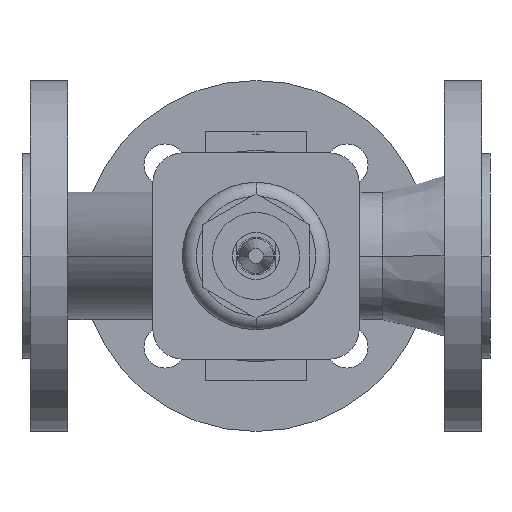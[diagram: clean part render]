
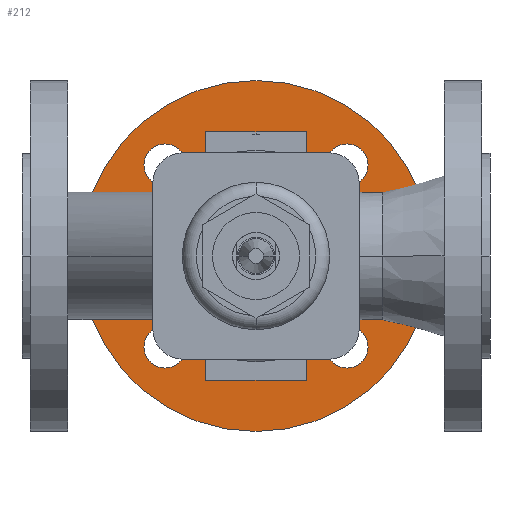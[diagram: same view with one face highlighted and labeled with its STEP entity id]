
A CAD part, front view. The second image highlights one B-rep face of the part: STEP entity #212.
In plain terms, the highlighted planar face has unit normal (0, -1, 0).
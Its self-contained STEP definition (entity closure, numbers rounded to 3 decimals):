
#212 = ADVANCED_FACE( '', ( #529, #530, #531, #532, #533, #534 ), #535, .T. );
#529 = FACE_OUTER_BOUND( '', #856, .T. );
#530 = FACE_BOUND( '', #857, .T. );
#531 = FACE_BOUND( '', #858, .T. );
#532 = FACE_BOUND( '', #859, .T. );
#533 = FACE_BOUND( '', #860, .T. );
#534 = FACE_BOUND( '', #861, .T. );
#535 = PLANE( '', #862 );
#856 = EDGE_LOOP( '', ( #1946, #1947 ) );
#857 = EDGE_LOOP( '', ( #1948, #1949 ) );
#858 = EDGE_LOOP( '', ( #1950, #1951 ) );
#859 = EDGE_LOOP( '', ( #1952, #1953 ) );
#860 = EDGE_LOOP( '', ( #1954, #1955 ) );
#861 = EDGE_LOOP( '', ( #1956, #1957 ) );
#862 = AXIS2_PLACEMENT_3D( '', #1958, #1959, #1960 );
#1946 = ORIENTED_EDGE( '', *, *, #2341, .F. );
#1947 = ORIENTED_EDGE( '', *, *, #2005, .F. );
#1948 = ORIENTED_EDGE( '', *, *, #2340, .F. );
#1949 = ORIENTED_EDGE( '', *, *, #2009, .F. );
#1950 = ORIENTED_EDGE( '', *, *, #2339, .F. );
#1951 = ORIENTED_EDGE( '', *, *, #2013, .F. );
#1952 = ORIENTED_EDGE( '', *, *, #2338, .F. );
#1953 = ORIENTED_EDGE( '', *, *, #2017, .F. );
#1954 = ORIENTED_EDGE( '', *, *, #2337, .F. );
#1955 = ORIENTED_EDGE( '', *, *, #2021, .F. );
#1956 = ORIENTED_EDGE( '', *, *, #1995, .F. );
#1957 = ORIENTED_EDGE( '', *, *, #2343, .F. );
#1958 = CARTESIAN_POINT( '', ( 59.25, 70.36, 0. ) );
#1959 = DIRECTION( '', ( 0., -1., 0. ) );
#1960 = DIRECTION( '', ( -1., 0., 0. ) );
#1995 = EDGE_CURVE( '', #2344, #2347, #2348, .T. );
#2005 = EDGE_CURVE( '', #2365, #2361, #2367, .T. );
#2009 = EDGE_CURVE( '', #2373, #2369, #2375, .T. );
#2013 = EDGE_CURVE( '', #2381, #2377, #2383, .T. );
#2017 = EDGE_CURVE( '', #2389, #2385, #2391, .T. );
#2021 = EDGE_CURVE( '', #2397, #2393, #2399, .T. );
#2337 = EDGE_CURVE( '', #2393, #2397, #2919, .T. );
#2338 = EDGE_CURVE( '', #2385, #2389, #2920, .T. );
#2339 = EDGE_CURVE( '', #2377, #2381, #2921, .T. );
#2340 = EDGE_CURVE( '', #2369, #2373, #2922, .T. );
#2341 = EDGE_CURVE( '', #2361, #2365, #2923, .T. );
#2343 = EDGE_CURVE( '', #2347, #2344, #2925, .T. );
#2344 = VERTEX_POINT( '', #2926 );
#2347 = VERTEX_POINT( '', #2930 );
#2348 = CIRCLE( '', #2931, 37.5 );
#2361 = VERTEX_POINT( '', #2947 );
#2365 = VERTEX_POINT( '', #2952 );
#2367 = CIRCLE( '', #2955, 75. );
#2369 = VERTEX_POINT( '', #2957 );
#2373 = VERTEX_POINT( '', #2962 );
#2375 = CIRCLE( '', #2965, 9. );
#2377 = VERTEX_POINT( '', #2967 );
#2381 = VERTEX_POINT( '', #2972 );
#2383 = CIRCLE( '', #2975, 9. );
#2385 = VERTEX_POINT( '', #2977 );
#2389 = VERTEX_POINT( '', #2982 );
#2391 = CIRCLE( '', #2985, 9. );
#2393 = VERTEX_POINT( '', #2987 );
#2397 = VERTEX_POINT( '', #2992 );
#2399 = CIRCLE( '', #2995, 9. );
#2919 = CIRCLE( '', #4475, 9. );
#2920 = CIRCLE( '', #4476, 9. );
#2921 = CIRCLE( '', #4477, 9. );
#2922 = CIRCLE( '', #4478, 9. );
#2923 = CIRCLE( '', #4479, 75. );
#2925 = CIRCLE( '', #4481, 37.5 );
#2926 = CARTESIAN_POINT( '', ( 62.5, 70.36, 0. ) );
#2930 = CARTESIAN_POINT( '', ( 137.5, 70.36, 0. ) );
#2931 = AXIS2_PLACEMENT_3D( '', #4483, #4484, #4485 );
#2947 = CARTESIAN_POINT( '', ( 175., 70.36, 0. ) );
#2952 = CARTESIAN_POINT( '', ( 25., 70.36, 0. ) );
#2955 = AXIS2_PLACEMENT_3D( '', #4503, #4504, #4505 );
#2957 = CARTESIAN_POINT( '', ( 147.891, 70.36, 38.891 ) );
#2962 = CARTESIAN_POINT( '', ( 129.891, 70.36, 38.891 ) );
#2965 = AXIS2_PLACEMENT_3D( '', #4511, #4512, #4513 );
#2967 = CARTESIAN_POINT( '', ( 147.891, 70.36, -38.891 ) );
#2972 = CARTESIAN_POINT( '', ( 129.891, 70.36, -38.891 ) );
#2975 = AXIS2_PLACEMENT_3D( '', #4519, #4520, #4521 );
#2977 = CARTESIAN_POINT( '', ( 70.109, 70.36, -38.891 ) );
#2982 = CARTESIAN_POINT( '', ( 52.109, 70.36, -38.891 ) );
#2985 = AXIS2_PLACEMENT_3D( '', #4527, #4528, #4529 );
#2987 = CARTESIAN_POINT( '', ( 70.109, 70.36, 38.891 ) );
#2992 = CARTESIAN_POINT( '', ( 52.109, 70.36, 38.891 ) );
#2995 = AXIS2_PLACEMENT_3D( '', #4535, #4536, #4537 );
#4475 = AXIS2_PLACEMENT_3D( '', #5143, #5144, #5145 );
#4476 = AXIS2_PLACEMENT_3D( '', #5146, #5147, #5148 );
#4477 = AXIS2_PLACEMENT_3D( '', #5149, #5150, #5151 );
#4478 = AXIS2_PLACEMENT_3D( '', #5152, #5153, #5154 );
#4479 = AXIS2_PLACEMENT_3D( '', #5155, #5156, #5157 );
#4481 = AXIS2_PLACEMENT_3D( '', #5161, #5162, #5163 );
#4483 = CARTESIAN_POINT( '', ( 100., 70.36, 0. ) );
#4484 = DIRECTION( '', ( 0., -1., 0. ) );
#4485 = DIRECTION( '', ( -1., 0., 0. ) );
#4503 = CARTESIAN_POINT( '', ( 100., 70.36, 0. ) );
#4504 = DIRECTION( '', ( 0., 1., 0. ) );
#4505 = DIRECTION( '', ( 1., 0., 0. ) );
#4511 = CARTESIAN_POINT( '', ( 138.891, 70.36, 38.891 ) );
#4512 = DIRECTION( '', ( 0., -1., 0. ) );
#4513 = DIRECTION( '', ( 1., 0., 0. ) );
#4519 = CARTESIAN_POINT( '', ( 138.891, 70.36, -38.891 ) );
#4520 = DIRECTION( '', ( 0., -1., 0. ) );
#4521 = DIRECTION( '', ( 1., 0., 0. ) );
#4527 = CARTESIAN_POINT( '', ( 61.109, 70.36, -38.891 ) );
#4528 = DIRECTION( '', ( 0., -1., 0. ) );
#4529 = DIRECTION( '', ( 1., 0., 0. ) );
#4535 = CARTESIAN_POINT( '', ( 61.109, 70.36, 38.891 ) );
#4536 = DIRECTION( '', ( 0., -1., 0. ) );
#4537 = DIRECTION( '', ( 1., 0., 0. ) );
#5143 = CARTESIAN_POINT( '', ( 61.109, 70.36, 38.891 ) );
#5144 = DIRECTION( '', ( 0., -1., 0. ) );
#5145 = DIRECTION( '', ( 1., 0., 0. ) );
#5146 = CARTESIAN_POINT( '', ( 61.109, 70.36, -38.891 ) );
#5147 = DIRECTION( '', ( 0., -1., 0. ) );
#5148 = DIRECTION( '', ( 1., 0., 0. ) );
#5149 = CARTESIAN_POINT( '', ( 138.891, 70.36, -38.891 ) );
#5150 = DIRECTION( '', ( 0., -1., 0. ) );
#5151 = DIRECTION( '', ( 1., 0., 0. ) );
#5152 = CARTESIAN_POINT( '', ( 138.891, 70.36, 38.891 ) );
#5153 = DIRECTION( '', ( 0., -1., 0. ) );
#5154 = DIRECTION( '', ( 1., 0., 0. ) );
#5155 = CARTESIAN_POINT( '', ( 100., 70.36, 0. ) );
#5156 = DIRECTION( '', ( 0., 1., 0. ) );
#5157 = DIRECTION( '', ( 1., 0., 0. ) );
#5161 = CARTESIAN_POINT( '', ( 100., 70.36, 0. ) );
#5162 = DIRECTION( '', ( 0., -1., 0. ) );
#5163 = DIRECTION( '', ( -1., 0., 0. ) );
